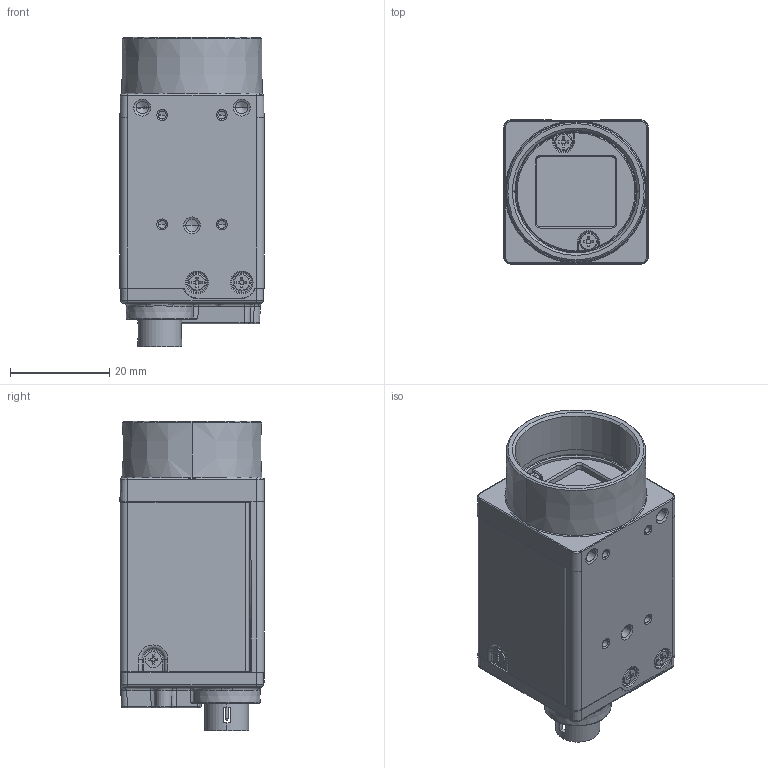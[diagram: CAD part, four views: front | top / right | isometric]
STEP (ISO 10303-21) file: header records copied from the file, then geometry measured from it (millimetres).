
FILE_DESCRIPTION((''),'2;1');
FILE_NAME('DH9-RDI000304-62322222','2024-05-16T10:41:09',('21511'),(''),'CREO PARAMETRIC BY PTC INC, 2020184','CREO PARAMETRIC BY PTC INC, 2020184','');
FILE_SCHEMA(('CONFIG_CONTROL_DESIGN','SHAPE_APPEARANCE_LAYERS_GROUPS'));
Products named in the file (1): DH9-RDI000304-62322222
Bounding box: 29 x 29 x 62.25 mm (x, y, z)
Volume: 36660.6 mm3; surface area: 14567 mm2
Topology: 1 solids, 12 shells, 1758 faces, 4838 edges, 3077 vertices
Faces by surface type: plane 1040, cylinder 414, cone 145, bspline 68, torus 55, extrusion 19, sphere 17
Entity records: 74214 total; most frequent: CARTESIAN_POINT 14774, ORIENTED_EDGE 9568, DIRECTION 8721, PRESENTATION_STYLE_ASSIGNMENT 4886, STYLED_ITEM 4785, CURVE_STYLE 4784, EDGE_CURVE 4784, VECTOR 3369
